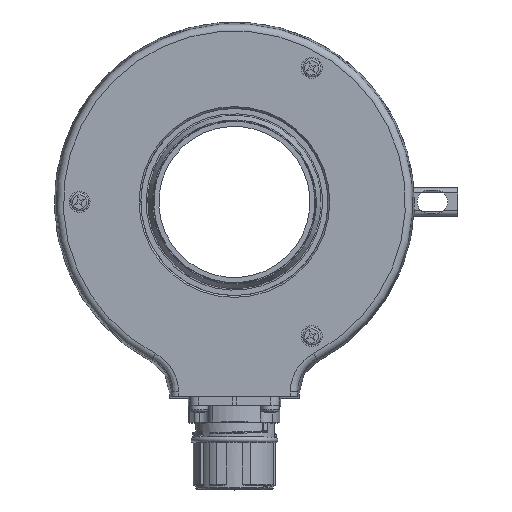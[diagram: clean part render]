
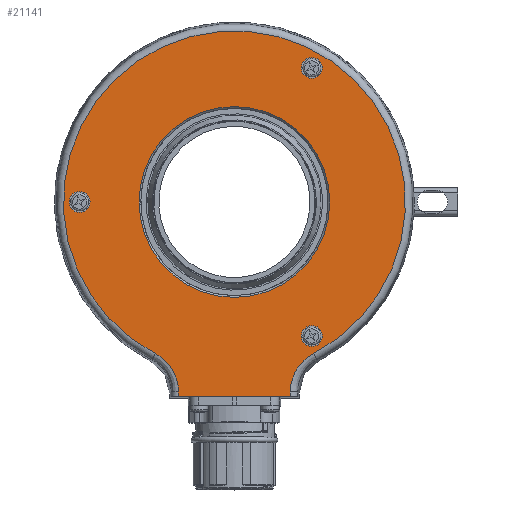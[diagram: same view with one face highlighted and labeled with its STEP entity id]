
A CAD part, left-side view. The second image highlights one B-rep face of the part: STEP entity #21141.
In plain terms, the highlighted planar face has unit normal (-1, 0, 0).
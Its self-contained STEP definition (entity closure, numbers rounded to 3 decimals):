
#935 = AXIS2_PLACEMENT_3D ( 'NONE', #22607, #22608, #22609 ) ;
#936 = AXIS2_PLACEMENT_3D ( 'NONE', #22628, #22629, #22630 ) ;
#937 = AXIS2_PLACEMENT_3D ( 'NONE', #22647, #22648, #22649 ) ;
#938 = AXIS2_PLACEMENT_3D ( 'NONE', #22650, #22651, #22652 ) ;
#939 = AXIS2_PLACEMENT_3D ( 'NONE', #22653, #22654, #22655 ) ;
#2401 = VERTEX_POINT ( 'NONE', #13093 ) ;
#2412 = VERTEX_POINT ( 'NONE', #13104 ) ;
#2415 = VERTEX_POINT ( 'NONE', #13107 ) ;
#2416 = VERTEX_POINT ( 'NONE', #13108 ) ;
#2417 = VERTEX_POINT ( 'NONE', #13109 ) ;
#2418 = VERTEX_POINT ( 'NONE', #13110 ) ;
#3985 = CARTESIAN_POINT ( 'NONE',  ( -22.773, -29.667, 0. ) ) ;
#3986 = CARTESIAN_POINT ( 'NONE',  ( -22.773, -26.117, -39.751 ) ) ;
#3987 = CARTESIAN_POINT ( 'NONE',  ( -22.773, -26.117, 39.751 ) ) ;
#3988 = CARTESIAN_POINT ( 'NONE',  ( -22.773, 42.733, 0. ) ) ;
#11344 = ORIENTED_EDGE ( 'NONE', *, *, #16333, .T. ) ;
#11353 = ORIENTED_EDGE ( 'NONE', *, *, #16334, .T. ) ;
#11357 = ORIENTED_EDGE ( 'NONE', *, *, #16332, .T. ) ;
#11358 = ORIENTED_EDGE ( 'NONE', *, *, #16331, .T. ) ;
#12009 = LINE ( 'NONE', #22611, #12046 ) ;
#12039 = LINE ( 'NONE', #22594, #12047 ) ;
#12045 = CIRCLE ( 'NONE', #935, 26.5 ) ;
#12046 = VECTOR ( 'NONE', #22598, 1000. ) ;
#12047 = VECTOR ( 'NONE', #22610, 1000. ) ;
#12048 = CIRCLE ( 'NONE', #937, 2.9 ) ;
#12049 = CIRCLE ( 'NONE', #936, 47.511 ) ;
#12050 = LINE ( 'NONE', #22645, #12051 ) ;
#12051 = VECTOR ( 'NONE', #22646, 1000. ) ;
#12054 = CIRCLE ( 'NONE', #938, 2.9 ) ;
#12055 = CIRCLE ( 'NONE', #939, 2.9 ) ;
#12745 = FACE_BOUND ( 'NONE', #25630, .T. ) ;
#12755 = FACE_BOUND ( 'NONE', #25612, .T. ) ;
#12758 = FACE_BOUND ( 'NONE', #25634, .T. ) ;
#12760 = FACE_BOUND ( 'NONE', #25635, .T. ) ;
#12762 = FACE_OUTER_BOUND ( 'NONE', #25629, .T. ) ;
#13093 = CARTESIAN_POINT ( 'NONE',  ( -22.773, -18.701, -54. ) ) ;
#13104 = CARTESIAN_POINT ( 'NONE',  ( -22.773, 12.368, -54. ) ) ;
#13107 = CARTESIAN_POINT ( 'NONE',  ( -22.773, -18.701, -52.757 ) ) ;
#13108 = CARTESIAN_POINT ( 'NONE',  ( -22.773, -25.148, -42.12 ) ) ;
#13109 = CARTESIAN_POINT ( 'NONE',  ( -22.773, 18.815, -42.12 ) ) ;
#13110 = CARTESIAN_POINT ( 'NONE',  ( -22.773, 12.368, -52.757 ) ) ;
#16331 = EDGE_CURVE ( 'NONE', #24021, #24021, #12045, .T. ) ;
#16332 = EDGE_CURVE ( 'NONE', #2412, #2401, #12039, .T. ) ;
#16333 = EDGE_CURVE ( 'NONE', #2401, #2415, #12009, .T. ) ;
#16334 = EDGE_CURVE ( 'NONE', #2415, #2416, #24648, .T. ) ;
#16335 = EDGE_CURVE ( 'NONE', #2416, #2417, #12049, .T. ) ;
#16336 = EDGE_CURVE ( 'NONE', #2417, #2418, #24610, .T. ) ;
#16337 = EDGE_CURVE ( 'NONE', #2418, #2412, #12050, .T. ) ;
#16338 = EDGE_CURVE ( 'NONE', #24022, #24022, #12048, .T. ) ;
#16339 = EDGE_CURVE ( 'NONE', #24023, #24023, #12054, .T. ) ;
#16340 = EDGE_CURVE ( 'NONE', #24024, #24024, #12055, .T. ) ;
#16646 = ORIENTED_EDGE ( 'NONE', *, *, #16340, .F. ) ;
#16649 = ORIENTED_EDGE ( 'NONE', *, *, #16335, .T. ) ;
#16651 = ORIENTED_EDGE ( 'NONE', *, *, #16339, .F. ) ;
#16654 = ORIENTED_EDGE ( 'NONE', *, *, #16336, .T. ) ;
#16655 = ORIENTED_EDGE ( 'NONE', *, *, #16338, .F. ) ;
#16659 = ORIENTED_EDGE ( 'NONE', *, *, #16337, .T. ) ;
#18051 = DIRECTION ( 'NONE',  ( 1., 0., 0. ) ) ;
#18052 = PLANE ( 'NONE',  #18777 ) ;
#18054 = CARTESIAN_POINT ( 'NONE',  ( -22.773, -3.167, -26. ) ) ;
#18056 = DIRECTION ( 'NONE',  ( 0., -1., 0. ) ) ;
#18777 = AXIS2_PLACEMENT_3D ( 'NONE', #18054, #18051, #18056 ) ;
#21141 = ADVANCED_FACE ( 'NONE', ( #12745, #12762, #12755, #12758, #12760 ), #18052, .F. ) ;
#22594 = CARTESIAN_POINT ( 'NONE',  ( -22.773, -20.667, -54. ) ) ;
#22598 = DIRECTION ( 'NONE',  ( 0., 0., 1. ) ) ;
#22602 = CARTESIAN_POINT ( 'NONE',  ( -22.773, -18.701, -51.657 ) ) ;
#22606 = CARTESIAN_POINT ( 'NONE',  ( -22.773, -18.701, -52.757 ) ) ;
#22607 = CARTESIAN_POINT ( 'NONE',  ( -22.773, -3.167, 0. ) ) ;
#22608 = DIRECTION ( 'NONE',  ( 1., 0., 0. ) ) ;
#22609 = DIRECTION ( 'NONE',  ( 0., -1., 0. ) ) ;
#22610 = DIRECTION ( 'NONE',  ( 0., -1., 0. ) ) ;
#22611 = CARTESIAN_POINT ( 'NONE',  ( -22.773, -18.701, -52.736 ) ) ;
#22612 = CARTESIAN_POINT ( 'NONE',  ( -22.773, -18.849, -50.583 ) ) ;
#22613 = CARTESIAN_POINT ( 'NONE',  ( -22.773, -19.288, -49.009 ) ) ;
#22614 = CARTESIAN_POINT ( 'NONE',  ( -22.773, -19.473, -48.488 ) ) ;
#22615 = CARTESIAN_POINT ( 'NONE',  ( -22.773, -19.906, -47.489 ) ) ;
#22616 = CARTESIAN_POINT ( 'NONE',  ( -22.773, -20.155, -47.007 ) ) ;
#22617 = CARTESIAN_POINT ( 'NONE',  ( -22.773, -20.716, -46.079 ) ) ;
#22618 = CARTESIAN_POINT ( 'NONE',  ( -22.773, -21.03, -45.632 ) ) ;
#22619 = CARTESIAN_POINT ( 'NONE',  ( -22.773, -21.721, -44.779 ) ) ;
#22620 = CARTESIAN_POINT ( 'NONE',  ( -22.773, -22.092, -44.38 ) ) ;
#22621 = CARTESIAN_POINT ( 'NONE',  ( -22.773, -22.882, -43.638 ) ) ;
#22622 = CARTESIAN_POINT ( 'NONE',  ( -22.773, -23.302, -43.295 ) ) ;
#22623 = CARTESIAN_POINT ( 'NONE',  ( -22.773, -24.19, -42.663 ) ) ;
#22624 = CARTESIAN_POINT ( 'NONE',  ( -22.773, -24.661, -42.374 ) ) ;
#22625 = CARTESIAN_POINT ( 'NONE',  ( -22.773, -25.148, -42.12 ) ) ;
#22626 = CARTESIAN_POINT ( 'NONE',  ( -22.773, 18.815, -42.12 ) ) ;
#22627 = CARTESIAN_POINT ( 'NONE',  ( -22.773, 17.84, -42.629 ) ) ;
#22628 = CARTESIAN_POINT ( 'NONE',  ( -22.773, -3.167, 0. ) ) ;
#22629 = DIRECTION ( 'NONE',  ( -1., 0., 0. ) ) ;
#22630 = DIRECTION ( 'NONE',  ( 0., -1., 0. ) ) ;
#22631 = CARTESIAN_POINT ( 'NONE',  ( -22.773, 16.957, -43.257 ) ) ;
#22632 = CARTESIAN_POINT ( 'NONE',  ( -22.773, 15.764, -44.375 ) ) ;
#22633 = CARTESIAN_POINT ( 'NONE',  ( -22.773, 15.388, -44.779 ) ) ;
#22634 = CARTESIAN_POINT ( 'NONE',  ( -22.773, 14.702, -45.625 ) ) ;
#22635 = CARTESIAN_POINT ( 'NONE',  ( -22.773, 14.39, -46.069 ) ) ;
#22636 = CARTESIAN_POINT ( 'NONE',  ( -22.773, 13.828, -46.996 ) ) ;
#22637 = CARTESIAN_POINT ( 'NONE',  ( -22.773, 13.576, -47.481 ) ) ;
#22638 = CARTESIAN_POINT ( 'NONE',  ( -22.773, 13.14, -48.488 ) ) ;
#22639 = CARTESIAN_POINT ( 'NONE',  ( -22.773, 12.958, -49.002 ) ) ;
#22640 = CARTESIAN_POINT ( 'NONE',  ( -22.773, 12.666, -50.046 ) ) ;
#22641 = CARTESIAN_POINT ( 'NONE',  ( -22.773, 12.555, -50.577 ) ) ;
#22642 = CARTESIAN_POINT ( 'NONE',  ( -22.773, 12.406, -51.657 ) ) ;
#22643 = CARTESIAN_POINT ( 'NONE',  ( -22.773, 12.368, -52.207 ) ) ;
#22644 = CARTESIAN_POINT ( 'NONE',  ( -22.773, 12.368, -52.757 ) ) ;
#22645 = CARTESIAN_POINT ( 'NONE',  ( -22.773, 12.368, -54. ) ) ;
#22646 = DIRECTION ( 'NONE',  ( 0., 0., -1. ) ) ;
#22647 = CARTESIAN_POINT ( 'NONE',  ( -22.773, -24.667, -37.239 ) ) ;
#22648 = DIRECTION ( 'NONE',  ( -1., 0., 0. ) ) ;
#22649 = DIRECTION ( 'NONE',  ( 0., -0.5, -0.866 ) ) ;
#22650 = CARTESIAN_POINT ( 'NONE',  ( -22.773, -24.667, 37.239 ) ) ;
#22651 = DIRECTION ( 'NONE',  ( -1., 0., 0. ) ) ;
#22652 = DIRECTION ( 'NONE',  ( 0., -0.5, 0.866 ) ) ;
#22653 = CARTESIAN_POINT ( 'NONE',  ( -22.773, 39.833, 0. ) ) ;
#22654 = DIRECTION ( 'NONE',  ( -1., 0., 0. ) ) ;
#22655 = DIRECTION ( 'NONE',  ( 0., 1., 0. ) ) ;
#24021 = VERTEX_POINT ( 'NONE', #3985 ) ;
#24022 = VERTEX_POINT ( 'NONE', #3986 ) ;
#24023 = VERTEX_POINT ( 'NONE', #3987 ) ;
#24024 = VERTEX_POINT ( 'NONE', #3988 ) ;
#24610 = B_SPLINE_CURVE_WITH_KNOTS ( 'NONE', 3,
 ( #22626, #22627, #22631, #22632, #22633, #22634, #22635, #22636, #22637, #22638, #22639, #22640, #22641, #22642, #22643, #22644 ),
 .UNSPECIFIED., .F., .F.,
 ( 4, 2, 2, 2, 2, 2, 2, 4 ),
 ( 0., 0.003, 0.005, 0.007, 0.008, 0.01, 0.011, 0.013 ),
 .UNSPECIFIED. ) ;
#24648 = B_SPLINE_CURVE_WITH_KNOTS ( 'NONE', 3,
 ( #22606, #22602, #22612, #22613, #22614, #22615, #22616, #22617, #22618, #22619, #22620, #22621, #22622, #22623, #22624, #22625 ),
 .UNSPECIFIED., .F., .F.,
 ( 4, 2, 2, 2, 2, 2, 2, 4 ),
 ( 0., 0.003, 0.005, 0.007, 0.008, 0.01, 0.011, 0.013 ),
 .UNSPECIFIED. ) ;
#25612 = EDGE_LOOP ( 'NONE', ( #16655 ) ) ;
#25629 = EDGE_LOOP ( 'NONE', ( #11357, #11344, #11353, #16649, #16654, #16659 ) ) ;
#25630 = EDGE_LOOP ( 'NONE', ( #11358 ) ) ;
#25634 = EDGE_LOOP ( 'NONE', ( #16651 ) ) ;
#25635 = EDGE_LOOP ( 'NONE', ( #16646 ) ) ;
